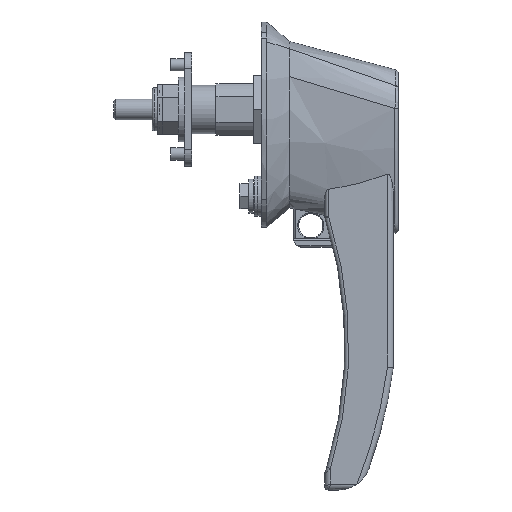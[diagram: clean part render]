
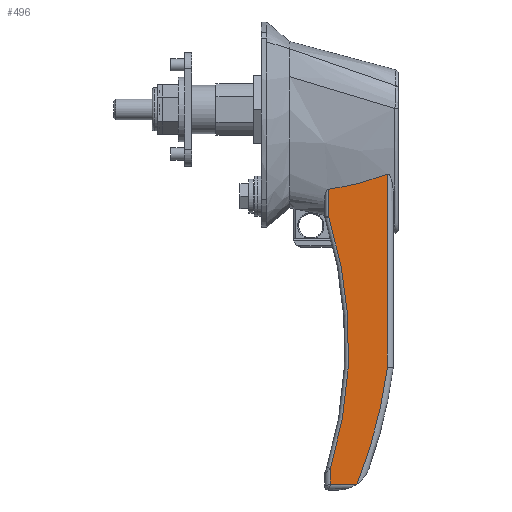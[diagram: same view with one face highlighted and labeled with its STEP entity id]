
A CAD part, left-side view. The second image highlights one B-rep face of the part: STEP entity #496.
In plain terms, the highlighted planar face has unit normal (-1, 0, 0) as drawn and (0, -1, 0) by its records, which use the part's own axes.
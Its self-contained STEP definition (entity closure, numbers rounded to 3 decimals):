
#496 = ADVANCED_FACE( '', ( #924 ), #925, .T. );
#924 = FACE_OUTER_BOUND( '', #2088, .T. );
#925 = PLANE( '', #2089 );
#2088 = EDGE_LOOP( '', ( #5154, #5155, #5156, #5157, #5158, #5159, #5160 ) );
#2089 = AXIS2_PLACEMENT_3D( '', #5161, #5162, #5163 );
#5154 = ORIENTED_EDGE( '', *, *, #6252, .T. );
#5155 = ORIENTED_EDGE( '', *, *, #6455, .T. );
#5156 = ORIENTED_EDGE( '', *, *, #6488, .T. );
#5157 = ORIENTED_EDGE( '', *, *, #6489, .T. );
#5158 = ORIENTED_EDGE( '', *, *, #6313, .T. );
#5159 = ORIENTED_EDGE( '', *, *, #6490, .T. );
#5160 = ORIENTED_EDGE( '', *, *, #6491, .T. );
#5161 = CARTESIAN_POINT( '', ( -22.225, -11.557, -24.765 ) );
#5162 = DIRECTION( '', ( 0., -1., 0. ) );
#5163 = DIRECTION( '', ( 0., 0., -1. ) );
#6252 = EDGE_CURVE( '', #7368, #7391, #7393, .T. );
#6313 = EDGE_CURVE( '', #7499, #7497, #7500, .T. );
#6455 = EDGE_CURVE( '', #7391, #7458, #7715, .T. );
#6488 = EDGE_CURVE( '', #7458, #7761, #7762, .F. );
#6489 = EDGE_CURVE( '', #7761, #7499, #7763, .T. );
#6490 = EDGE_CURVE( '', #7497, #7764, #7765, .T. );
#6491 = EDGE_CURVE( '', #7764, #7368, #7766, .F. );
#7368 = VERTEX_POINT( '', #8396 );
#7391 = VERTEX_POINT( '', #8529 );
#7393 = B_SPLINE_CURVE_WITH_KNOTS( '', 3, ( #8546, #8547, #8548, #8549, #8550, #8551, #8552, #8553 ), .UNSPECIFIED., .F., .F., ( 4, 2, 2, 4 ), ( 0.002, 0.008, 0.014, 0.026 ), .UNSPECIFIED. );
#7458 = VERTEX_POINT( '', #8867 );
#7497 = VERTEX_POINT( '', #8965 );
#7499 = VERTEX_POINT( '', #8970 );
#7500 = LINE( '', #8971, #8972 );
#7715 = LINE( '', #9456, #9457 );
#7761 = VERTEX_POINT( '', #9565 );
#7762 = CIRCLE( '', #9566, 164.521 );
#7763 = LINE( '', #9567, #9568 );
#7764 = VERTEX_POINT( '', #9569 );
#7765 = CIRCLE( '', #9570, 185.663 );
#7766 = LINE( '', #9571, #9572 );
#8396 = CARTESIAN_POINT( '', ( -25.378, -11.557, -49.403 ) );
#8529 = CARTESIAN_POINT( '', ( -31.269, -11.557, -26.289 ) );
#8546 = CARTESIAN_POINT( '', ( -25.378, -11.557, -49.403 ) );
#8547 = CARTESIAN_POINT( '', ( -26.116, -11.557, -47.551 ) );
#8548 = CARTESIAN_POINT( '', ( -26.789, -11.557, -45.675 ) );
#8549 = CARTESIAN_POINT( '', ( -28.005, -11.557, -41.879 ) );
#8550 = CARTESIAN_POINT( '', ( -28.549, -11.557, -39.956 ) );
#8551 = CARTESIAN_POINT( '', ( -29.996, -11.557, -34.154 ) );
#8552 = CARTESIAN_POINT( '', ( -30.718, -11.557, -30.238 ) );
#8553 = CARTESIAN_POINT( '', ( -31.269, -11.557, -26.289 ) );
#8867 = CARTESIAN_POINT( '', ( -42.07, -11.557, -26.289 ) );
#8965 = CARTESIAN_POINT( '', ( -146.939, -11.557, -37.399 ) );
#8970 = CARTESIAN_POINT( '', ( -146.939, -11.557, -27.051 ) );
#8971 = CARTESIAN_POINT( '', ( -146.939, -11.557, -24.765 ) );
#8972 = VECTOR( '', #10680, 1000. );
#9456 = CARTESIAN_POINT( '', ( -37.573, -11.557, -26.289 ) );
#9457 = VECTOR( '', #10814, 1000. );
#9565 = CARTESIAN_POINT( '', ( -140.752, -11.557, -27.051 ) );
#9566 = AXIS2_PLACEMENT_3D( '', #10850, #10851, #10852 );
#9567 = CARTESIAN_POINT( '', ( -149.225, -11.557, -27.051 ) );
#9568 = VECTOR( '', #10853, 1000. );
#9569 = CARTESIAN_POINT( '', ( -101.017, -11.557, -49.403 ) );
#9570 = AXIS2_PLACEMENT_3D( '', #10854, #10855, #10856 );
#9571 = CARTESIAN_POINT( '', ( -22.225, -11.557, -49.403 ) );
#9572 = VECTOR( '', #10857, 1000. );
#10680 = DIRECTION( '', ( 0., 0., -1. ) );
#10814 = DIRECTION( '', ( -1., 0., 0. ) );
#10850 = CARTESIAN_POINT( '', ( -92.623, -11.557, 130.273 ) );
#10851 = DIRECTION( '', ( 0., -1., 0. ) );
#10852 = DIRECTION( '', ( 0., 0., -1. ) );
#10853 = DIRECTION( '', ( -1., 0., 0. ) );
#10854 = CARTESIAN_POINT( '', ( -77.407, -11.557, 134.753 ) );
#10855 = DIRECTION( '', ( 0., -1., 0. ) );
#10856 = DIRECTION( '', ( 0., 0., -1. ) );
#10857 = DIRECTION( '', ( -1., 0., 0. ) );
